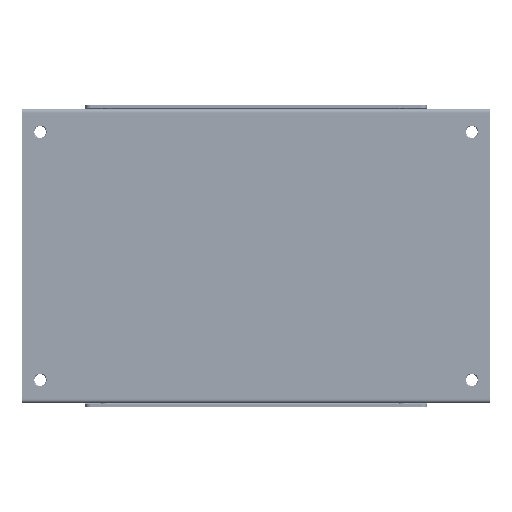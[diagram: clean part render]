
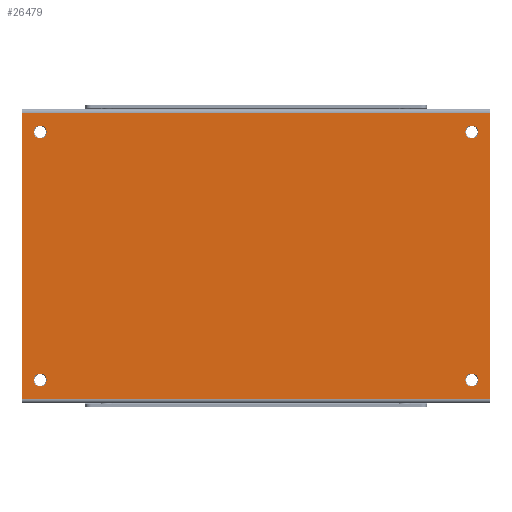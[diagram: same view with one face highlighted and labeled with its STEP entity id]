
A CAD part, front view. The second image highlights one B-rep face of the part: STEP entity #26479.
In plain terms, the highlighted planar face has unit normal (0, -1, 0).
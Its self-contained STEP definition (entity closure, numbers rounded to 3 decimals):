
#4646 = CARTESIAN_POINT ( 'NONE',  ( 58.409, -16.641, 170.424 ) ) ;
#5085 = LINE ( 'NONE', #72297, #71359 ) ;
#7118 = ORIENTED_EDGE ( 'NONE', *, *, #160278, .T. ) ;
#7756 = DIRECTION ( 'NONE',  ( 1., 0., 0. ) ) ;
#9566 = EDGE_LOOP ( 'NONE', ( #126777, #69187, #7118, #27799 ) ) ;
#11491 = EDGE_CURVE ( 'NONE', #17431, #166019, #153731, .T. ) ;
#12177 = PLANE ( 'NONE',  #159143 ) ;
#12568 = VERTEX_POINT ( 'NONE', #135108 ) ;
#12841 = VERTEX_POINT ( 'NONE', #93316 ) ;
#15989 = DIRECTION ( 'NONE',  ( 0., 1., 0. ) ) ;
#16249 = CARTESIAN_POINT ( 'NONE',  ( 58.409, -16.641, 239.004 ) ) ;
#17202 = DIRECTION ( 'NONE',  ( 0., 1., 0. ) ) ;
#17431 = VERTEX_POINT ( 'NONE', #141813 ) ;
#18253 = CIRCLE ( 'NONE', #141633, 1.8 ) ;
#18860 = AXIS2_PLACEMENT_3D ( 'NONE', #38250, #93001, #177526 ) ;
#19697 = VERTEX_POINT ( 'NONE', #170810 ) ;
#20680 = CARTESIAN_POINT ( 'NONE',  ( 58.409, -16.641, 239.004 ) ) ;
#26479 = ADVANCED_FACE ( 'NONE', ( #71920, #148679, #125021, #39036, #167250 ), #12177, .F. ) ;
#26544 = CARTESIAN_POINT ( 'NONE',  ( -65.981, -16.641, 245.364 ) ) ;
#27117 = ORIENTED_EDGE ( 'NONE', *, *, #157013, .T. ) ;
#27799 = ORIENTED_EDGE ( 'NONE', *, *, #88360, .T. ) ;
#32329 = VECTOR ( 'NONE', #112708, 1000. ) ;
#32499 = DIRECTION ( 'NONE',  ( 0., 1., 0. ) ) ;
#35533 = CARTESIAN_POINT ( 'NONE',  ( -65.981, -16.641, 165.064 ) ) ;
#36181 = DIRECTION ( 'NONE',  ( -0.866, 0., 0.5 ) ) ;
#36443 = AXIS2_PLACEMENT_3D ( 'NONE', #69012, #40320, #36181 ) ;
#38250 = CARTESIAN_POINT ( 'NONE',  ( 58.409, -16.641, 170.424 ) ) ;
#39036 = FACE_BOUND ( 'NONE', #110590, .T. ) ;
#39976 = CARTESIAN_POINT ( 'NONE',  ( 59.968, -16.641, 238.104 ) ) ;
#40257 = CARTESIAN_POINT ( 'NONE',  ( -60.971, -16.641, 239.004 ) ) ;
#40320 = DIRECTION ( 'NONE',  ( 0., 1., 0. ) ) ;
#49339 = DIRECTION ( 'NONE',  ( -0.866, 0., 0.5 ) ) ;
#54640 = EDGE_CURVE ( 'NONE', #167780, #101692, #18253, .T. ) ;
#56441 = CARTESIAN_POINT ( 'NONE',  ( -59.412, -16.641, 169.524 ) ) ;
#56568 = ORIENTED_EDGE ( 'NONE', *, *, #68588, .T. ) ;
#58111 = DIRECTION ( 'NONE',  ( -0.866, 0., 0.5 ) ) ;
#58381 = DIRECTION ( 'NONE',  ( 0., 1., 0. ) ) ;
#58552 = CIRCLE ( 'NONE', #130281, 1.8 ) ;
#59275 = DIRECTION ( 'NONE',  ( 0., 1., 0. ) ) ;
#59697 = DIRECTION ( 'NONE',  ( 0., 0., 1. ) ) ;
#60055 = CARTESIAN_POINT ( 'NONE',  ( 63.419, -16.641, 165.064 ) ) ;
#60486 = CIRCLE ( 'NONE', #160952, 1.8 ) ;
#61356 = ORIENTED_EDGE ( 'NONE', *, *, #73317, .T. ) ;
#62744 = ORIENTED_EDGE ( 'NONE', *, *, #122728, .T. ) ;
#63144 = ORIENTED_EDGE ( 'NONE', *, *, #11491, .T. ) ;
#63720 = ORIENTED_EDGE ( 'NONE', *, *, #173620, .T. ) ;
#64234 = EDGE_LOOP ( 'NONE', ( #56568, #64744 ) ) ;
#64744 = ORIENTED_EDGE ( 'NONE', *, *, #54640, .T. ) ;
#65525 = CIRCLE ( 'NONE', #163051, 1.8 ) ;
#67216 = VERTEX_POINT ( 'NONE', #90034 ) ;
#68588 = EDGE_CURVE ( 'NONE', #101692, #167780, #58552, .T. ) ;
#69012 = CARTESIAN_POINT ( 'NONE',  ( -60.971, -16.641, 239.004 ) ) ;
#69187 = ORIENTED_EDGE ( 'NONE', *, *, #136943, .T. ) ;
#69320 = CARTESIAN_POINT ( 'NONE',  ( -62.53, -16.641, 239.904 ) ) ;
#71359 = VECTOR ( 'NONE', #59697, 1000. ) ;
#71920 = FACE_OUTER_BOUND ( 'NONE', #9566, .T. ) ;
#72297 = CARTESIAN_POINT ( 'NONE',  ( 63.419, -16.641, 245.364 ) ) ;
#73317 = EDGE_CURVE ( 'NONE', #19697, #91489, #128071, .T. ) ;
#80627 = CARTESIAN_POINT ( 'NONE',  ( -60.971, -16.641, 170.424 ) ) ;
#83054 = CARTESIAN_POINT ( 'NONE',  ( -65.981, -16.641, 245.364 ) ) ;
#88360 = EDGE_CURVE ( 'NONE', #12841, #67216, #121369, .T. ) ;
#90034 = CARTESIAN_POINT ( 'NONE',  ( -65.981, -16.641, 244.364 ) ) ;
#91489 = VERTEX_POINT ( 'NONE', #69320 ) ;
#93001 = DIRECTION ( 'NONE',  ( 0., 1., 0. ) ) ;
#93316 = CARTESIAN_POINT ( 'NONE',  ( 63.419, -16.641, 244.364 ) ) ;
#94470 = AXIS2_PLACEMENT_3D ( 'NONE', #40257, #15989, #58111 ) ;
#99637 = DIRECTION ( 'NONE',  ( -0.866, 0., 0.5 ) ) ;
#101692 = VERTEX_POINT ( 'NONE', #39976 ) ;
#103207 = VERTEX_POINT ( 'NONE', #60055 ) ;
#105362 = EDGE_CURVE ( 'NONE', #140601, #162578, #113473, .T. ) ;
#105423 = VECTOR ( 'NONE', #154516, 1000. ) ;
#110590 = EDGE_LOOP ( 'NONE', ( #62744, #122747 ) ) ;
#112708 = DIRECTION ( 'NONE',  ( 0., 0., 1. ) ) ;
#113414 = EDGE_LOOP ( 'NONE', ( #27117, #63144 ) ) ;
#113473 = CIRCLE ( 'NONE', #170892, 1.8 ) ;
#116315 = LINE ( 'NONE', #35533, #129595 ) ;
#121369 = LINE ( 'NONE', #125786, #105423 ) ;
#122728 = EDGE_CURVE ( 'NONE', #162578, #140601, #65525, .T. ) ;
#122747 = ORIENTED_EDGE ( 'NONE', *, *, #105362, .T. ) ;
#125021 = FACE_BOUND ( 'NONE', #113414, .T. ) ;
#125786 = CARTESIAN_POINT ( 'NONE',  ( -65.981, -16.641, 244.364 ) ) ;
#126168 = EDGE_CURVE ( 'NONE', #12568, #67216, #127071, .T. ) ;
#126760 = DIRECTION ( 'NONE',  ( -1., 0., 0. ) ) ;
#126777 = ORIENTED_EDGE ( 'NONE', *, *, #126168, .F. ) ;
#127071 = LINE ( 'NONE', #83054, #32329 ) ;
#128071 = CIRCLE ( 'NONE', #36443, 1.8 ) ;
#128570 = DIRECTION ( 'NONE',  ( -0.866, 0., 0.5 ) ) ;
#129595 = VECTOR ( 'NONE', #7756, 1000. ) ;
#130281 = AXIS2_PLACEMENT_3D ( 'NONE', #20680, #157161, #154502 ) ;
#135108 = CARTESIAN_POINT ( 'NONE',  ( -65.981, -16.641, 165.064 ) ) ;
#136943 = EDGE_CURVE ( 'NONE', #12568, #103207, #116315, .T. ) ;
#140601 = VERTEX_POINT ( 'NONE', #144762 ) ;
#141633 = AXIS2_PLACEMENT_3D ( 'NONE', #16249, #58381, #99637 ) ;
#141813 = CARTESIAN_POINT ( 'NONE',  ( 56.85, -16.641, 171.324 ) ) ;
#144298 = EDGE_LOOP ( 'NONE', ( #61356, #63720 ) ) ;
#144762 = CARTESIAN_POINT ( 'NONE',  ( -62.53, -16.641, 171.324 ) ) ;
#148679 = FACE_BOUND ( 'NONE', #64234, .T. ) ;
#153731 = CIRCLE ( 'NONE', #18860, 1.8 ) ;
#154502 = DIRECTION ( 'NONE',  ( -0.866, 0., 0.5 ) ) ;
#154516 = DIRECTION ( 'NONE',  ( -1., 0., 0. ) ) ;
#154677 = CARTESIAN_POINT ( 'NONE',  ( -60.971, -16.641, 170.424 ) ) ;
#155435 = DIRECTION ( 'NONE',  ( -0.866, 0., 0.5 ) ) ;
#157013 = EDGE_CURVE ( 'NONE', #166019, #17431, #60486, .T. ) ;
#157161 = DIRECTION ( 'NONE',  ( 0., 1., 0. ) ) ;
#159143 = AXIS2_PLACEMENT_3D ( 'NONE', #26544, #17202, #126760 ) ;
#160278 = EDGE_CURVE ( 'NONE', #103207, #12841, #5085, .T. ) ;
#160952 = AXIS2_PLACEMENT_3D ( 'NONE', #4646, #59275, #155435 ) ;
#162578 = VERTEX_POINT ( 'NONE', #56441 ) ;
#163051 = AXIS2_PLACEMENT_3D ( 'NONE', #154677, #32499, #128570 ) ;
#166019 = VERTEX_POINT ( 'NONE', #167572 ) ;
#166650 = CIRCLE ( 'NONE', #94470, 1.8 ) ;
#167250 = FACE_BOUND ( 'NONE', #144298, .T. ) ;
#167572 = CARTESIAN_POINT ( 'NONE',  ( 59.968, -16.641, 169.524 ) ) ;
#167780 = VERTEX_POINT ( 'NONE', #168951 ) ;
#168951 = CARTESIAN_POINT ( 'NONE',  ( 56.85, -16.641, 239.904 ) ) ;
#170810 = CARTESIAN_POINT ( 'NONE',  ( -59.412, -16.641, 238.104 ) ) ;
#170892 = AXIS2_PLACEMENT_3D ( 'NONE', #80627, #172460, #49339 ) ;
#172460 = DIRECTION ( 'NONE',  ( 0., 1., 0. ) ) ;
#173620 = EDGE_CURVE ( 'NONE', #91489, #19697, #166650, .T. ) ;
#177526 = DIRECTION ( 'NONE',  ( -0.866, 0., 0.5 ) ) ;
